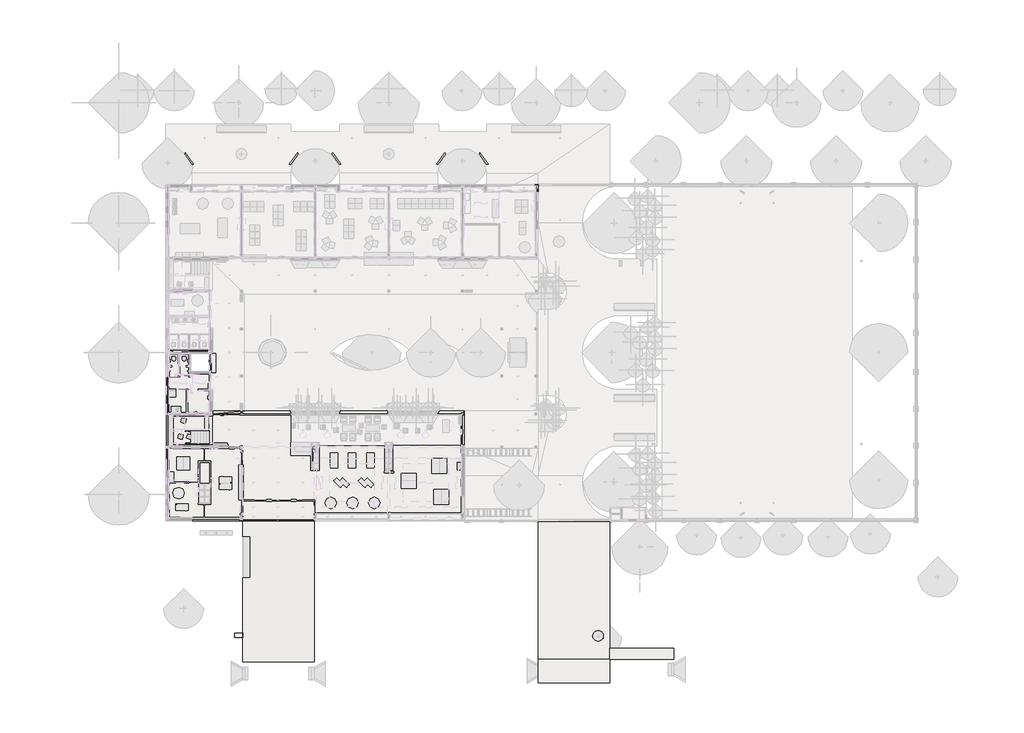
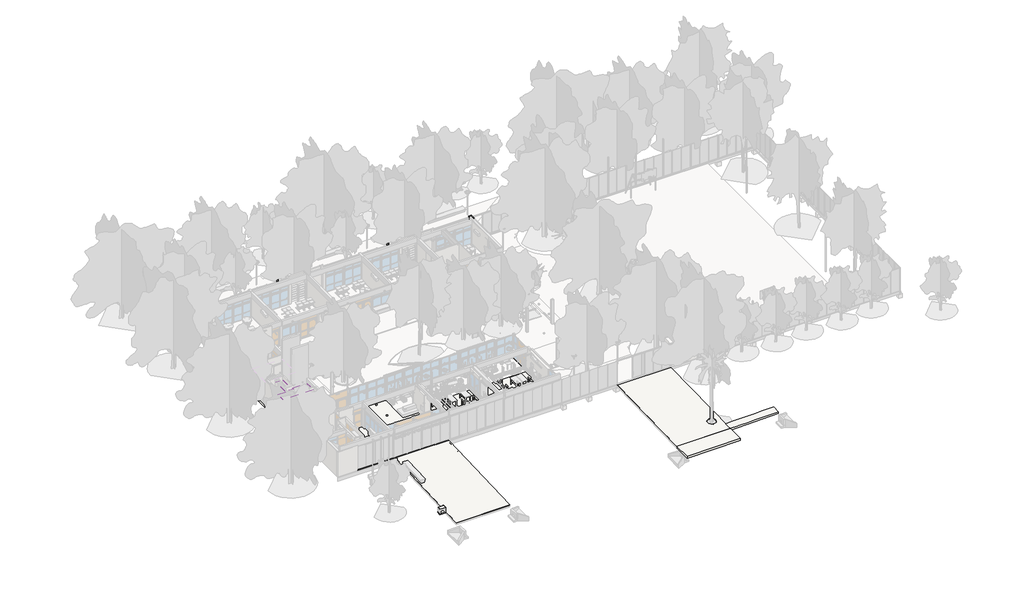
# One storey, part 7 of 22: 23 slabs, 9 walls, 2 coverings.
"""IFC4 building model written with IfcOpenShell, lengths in millimetres."""

from ifc_helpers import new_model, si_unit, point, frame, frame_2d, origin, place, context, project, spatial, polyline, circle_curve, ellipse_curve, trimmed, segment, composite_curve, outline, extrude, faceted_brep, element, save
from ifc_brep_helpers import plane_surface, revolved_surface, spline_surface, advanced_brep

model = new_model("IFC4")

# Units and contexts
model_context = context("Model", 3, world=origin())
ifc_project = project(units=[si_unit("LENGTHUNIT", "METRE", prefix="MILLI")], contexts=[model_context])

# Site, building, storey
site = spatial("IfcSite", under=ifc_project)
building = spatial("IfcBuilding", under=site)
storey = spatial("IfcBuildingStorey", under=building, Name="PLanta baja", Elevation=0.0)

# Coverings
placement = place(None, origin())
element("IfcCovering", 1, ObjectType="22-CIEL-PLACA DE YESO PINTADA DE BLANCO CON ESTRUCTURA 45,5MM", at=placement, inside=storey, context=model_context, shape_type="SweptSolid", body=[
    extrude(outline(polyline([(5250.9489127, 15850.2304035), (5250.9489127, 13780.2304035), (4387.5203708, 13780.2304035), (4387.5203708, 15850.2304035), (5250.9489127, 15850.2304035)])), frame((0.0, 0.0, 2600.0), z_axis=(0.0, 0.0, 1.0), x_axis=(1.0, 0.0, 0.0)), (0.0, 0.0, 1.0), 45.5),
    extrude(outline(polyline([(4267.5203708, 15850.2304035), (4267.5203708, 13780.2304035), (3408.7173694, 13780.2304035), (3408.7173694, 15850.2304035), (4267.5203708, 15850.2304035)])), frame((0.0, 0.0, 2600.0), z_axis=(0.0, 0.0, 1.0), x_axis=(1.0, 0.0, 0.0)), (0.0, 0.0, 1.0), 45.5),
])
element("IfcCovering", 2, ObjectType="22-CIEL-PLACA DE YESO PINTADA DE BLANCO CON ESTRUCTURA 45,5MM", at=placement, inside=storey, context=model_context, shape_type="SweptSolid", body=[
    extrude(outline(polyline([(5018.7173694, 12410.2304035), (5018.7173694, 10335.2304035), (3388.7173693, 10335.2304035), (3388.7173693, 12410.2304035), (5018.7173694, 12410.2304035)])), frame((0.0, 0.0, 2600.0), z_axis=(0.0, 0.0, 1.0), x_axis=(1.0, 0.0, 0.0)), (0.0, 0.0, 1.0), 45.5),
    extrude(outline(polyline([(7148.7173693, 12405.2304035), (7148.7173693, 10340.2304035), (5133.7173694, 10340.2304035), (5133.7173694, 12405.2304035), (7148.7173693, 12405.2304035)])), frame((0.0, 0.0, 2600.0), z_axis=(0.0, 0.0, 1.0), x_axis=(1.0, 0.0, 0.0)), (0.0, 0.0, 1.0), 45.5),
    extrude(outline(polyline([(3388.7173693, 13670.2304035), (5365.9489127, 13670.2304035), (5365.9489127, 13970.2304035), (7168.7173693, 13970.2304035), (7168.7173693, 12520.2304035), (3388.7173693, 12520.2304035), (3388.7173693, 13670.2304035)])), frame((0.0, 0.0, 2600.0), z_axis=(0.0, 0.0, 1.0), x_axis=(1.0, 0.0, 0.0)), (0.0, 0.0, 1.0), 45.5),
])

# Slabs
element("IfcSlab", 3, ObjectType="P2 Adoquín hormigón- Sin sustrato", at=placement, inside=storey, context=model_context, shape_type="SweptSolid", body=[
    extrude(outline(polyline([(-13010.358923, -644.0), (-13010.358923, -584.0), (210.2304035, -30.0), (210.2304035, -90.0), (-13010.358923, -644.0)])), frame((10288.7173694, 0.0, 0.0), z_axis=(1.0, 0.0, 0.0), x_axis=(0.0, 1.0, 0.0)), (0.0, 0.0, 1.0), 6700.0),
])
element("IfcSlab", 4, ObjectType="PODOTÁCTIL 30x30 4 cm", at=placement, inside=storey, context=model_context, shape_type="SweptSolid", body=[
    extrude(outline(polyline([(7168.7173694, 10010.2304035), (7468.7173694, 10010.2304035), (7468.7173694, 7330.2304035), (7168.7173694, 7330.2304035), (7168.7173694, 10010.2304035)])), frame((0.0, 0.0, -50.0), z_axis=(0.0, 0.0, 1.0), x_axis=(1.0, 0.0, 0.0)), (0.0, 0.0, 1.0), 50.0),
])
element("IfcSlab", 5, ObjectType="PODOTÁCTIL 30x30 8 cm", at=placement, inside=storey, context=model_context, shape_type="SweptSolid", body=[
    extrude(outline(polyline([(7788.7173694, 15870.2304035), (7788.7173694, 14070.2304035), (7368.7173693, 14070.2304035), (7368.7173693, 14170.2304035), (7188.7173694, 14170.2304035), (7188.7173694, 15870.2304035), (7788.7173694, 15870.2304035)])), frame((0.0, 0.0, -80.0), z_axis=(0.0, 0.0, 1.0), x_axis=(1.0, 0.0, 0.0)), (0.0, 0.0, 1.0), 80.0),
])
element("IfcSlab", 6, ObjectType="C30 MONOLITICO 30x30 5cm", at=placement, inside=storey, context=model_context, shape_type="Brep", body=[
    faceted_brep([(14788.7173693, 10470.2304035, -50.0), (14788.7173693, 7220.2304035, -50.0), (16988.7173694, 7220.2304035, -50.0), (16988.7173694, 6620.2304035, -50.0), (17188.7173694, 6620.2304035, -50.0), (17188.7173694, 7220.2304035, -50.0), (23888.7173694, 7220.2304035, -50.0), (23888.7173694, 6620.2304035, -50.0), (24088.7173694, 6620.2304035, -50.0), (24088.7173694, 7250.2304035, -50.0), (30773.7173693, 7250.2304035, -50.0), (30773.7173693, 2520.2304035, -50.0), (30788.7173694, 2520.2304035, -50.0), (30788.7173694, 920.2304035, -50.0), (16988.7173694, 920.2304035, -50.0), (16988.7173694, 2079.2304035, -50.0), (10288.7173694, 2079.2304035, -50.0), (10288.7173694, 920.2304035, -50.0), (10088.7173694, 920.2304035, -50.0), (10088.7173694, 510.2304035, -50.0), (3403.7173694, 510.2304035, -50.0), (3403.7173694, 4920.2304035, -50.0), (3378.7173694, 4920.2304035, -50.0), (3378.7173694, 7020.2304035, -50.0), (3788.7173693, 7020.2304035, -50.0), (3788.7173693, 7005.2304035, -50.0), (8938.7173694, 7005.2304035, -50.0), (8938.7173694, 7330.2304035, -50.0), (7468.7173694, 7330.2304035, -50.0), (7468.7173694, 10010.2304035, -50.0), (7478.7173693, 10010.2304035, -50.0), (7478.7173693, 10470.2304035, -50.0), (10276.2173694, 7220.2304035, -50.0), (10088.7173694, 7220.2304035, -50.0), (10088.7173694, 6620.2304035, -50.0), (10276.2173694, 6620.2304035, -50.0), (7288.7173693, 5680.2304035, -50.0), (7223.7173693, 5680.2304035, -50.0), (7223.7173693, 1835.2304035, -50.0), (7288.7173693, 1835.2304035, -50.0), (6247.7173693, 3685.2304035, -50.0), (6188.7173693, 3685.2304035, -50.0), (6188.7173693, 1835.2304035, -50.0), (6247.7173693, 1835.2304035, -50.0), (14788.7173693, 10470.2304035, -30.0), (14788.7173693, 10196.8528489, -0.176994), (14788.7173693, 10195.2304035, 0.0), (14788.7173693, 7220.2304035, 0.0), (16988.7173694, 7220.2304035, 0.0), (16988.7173694, 6620.2304035, 0.0), (17188.7173694, 6620.2304035, 0.0), (17188.7173694, 7220.2304035, 0.0), (23888.7173694, 7220.2304035, 0.0), (23888.7173694, 6620.2304035, 0.0), (24088.7173694, 6620.2304035, 0.0), (24088.7173694, 7250.2304035, 0.0), (30773.7173693, 7250.2304035, 0.0), (30788.7173694, 2520.2304035, 0.0), (30788.7173694, 920.2304035, 0.0), (16988.7173694, 920.2304035, 0.0), (16988.7173694, 2079.2304035, 0.0), (10288.7173694, 920.2304035, 0.0), (10088.7173694, 920.2304035, 0.0), (10088.7173694, 510.2304035, 0.0), (3403.7173694, 510.2304035, 0.0), (3403.7173694, 4920.2304035, 0.0), (3378.7173694, 7020.2304035, 0.0), (3788.7173693, 7020.2304035, 0.0), (3788.7173693, 7005.2304035, 0.0), (8938.7173694, 7005.2304035, 0.0), (8938.7173694, 7330.2304035, 0.0), (7468.7173694, 7330.2304035, 0.0), (7468.7173694, 10010.2304035, 0.0), (7478.7173693, 10470.2304035, 0.0), (10438.7173694, 10470.2304035, -30.0), (10276.2173694, 7220.2304035, 0.0), (10088.7173694, 7220.2304035, 0.0), (10088.7173694, 6620.2304035, 0.0), (10276.2173694, 6620.2304035, 0.0), (3378.7173694, 4920.2304035, 0.0), (7288.7173693, 5680.2304035, 0.0), (7223.7173693, 5680.2304035, 0.0), (7223.7173693, 1835.2304035, 0.0), (7288.7173693, 1835.2304035, 0.0), (6247.7173693, 3685.2304035, 0.0), (6188.7173693, 3685.2304035, 0.0), (6188.7173693, 1835.2304035, 0.0), (6247.7173693, 1835.2304035, 0.0), (30773.7173693, 2520.2304035, 0.0), (7478.7173693, 10010.2304035, 0.0), (7478.7173693, 10120.2304035, 0.0), (7478.7173693, 10195.2304035, 0.0), (10288.7173694, 2079.2304035, 0.0)], [[[0, 1, 2, 3, 4, 5, 6, 7, 8, 9, 10, 11, 12, 13, 14, 15, 16, 17, 18, 19, 20, 21, 22, 23, 24, 25, 26, 27, 28, 29, 30, 31], [32, 33, 34, 35], [36, 37, 38, 39], [40, 41, 42, 43]], [[1, 0, 44, 45, 46, 47]], [[2, 1, 47, 48]], [[3, 2, 48, 49]], [[4, 3, 49, 50]], [[5, 4, 50, 51]], [[6, 5, 51, 52]], [[7, 6, 52, 53]], [[8, 7, 53, 54]], [[9, 8, 54, 55]], [[10, 9, 55, 56]], [[13, 12, 57, 58]], [[14, 13, 58, 59]], [[15, 14, 59, 60]], [[18, 17, 61, 62]], [[19, 18, 62, 63]], [[20, 19, 63, 64]], [[21, 20, 64, 65]], [[24, 23, 66, 67]], [[25, 24, 67, 68]], [[26, 25, 68, 69]], [[27, 26, 69, 70]], [[28, 27, 70, 71]], [[29, 28, 71, 72]], [[0, 31, 73, 74, 44]], [[33, 32, 75, 76]], [[34, 33, 76, 77]], [[35, 34, 77, 78]], [[32, 35, 78, 75]], [[22, 21, 65, 79]], [[23, 22, 79, 66]], [[37, 36, 80, 81]], [[38, 37, 81, 82]], [[39, 38, 82, 83]], [[36, 39, 83, 80]], [[41, 40, 84, 85]], [[42, 41, 85, 86]], [[43, 42, 86, 87]], [[40, 43, 87, 84]], [[11, 10, 56, 88]], [[12, 11, 88, 57]], [[30, 29, 72, 89]], [[31, 30, 89, 90, 91, 73]], [[65, 64, 63, 62, 61, 92, 60, 59, 58, 57, 88, 56, 55, 54, 53, 52, 51, 50, 49, 48, 47, 46, 91, 90, 89, 72, 71, 70, 69, 68, 67, 66, 79], [87, 86, 85, 84], [83, 82, 81, 80], [77, 76, 75, 78]], [[16, 15, 60, 92]], [[17, 16, 92, 61]], [[73, 91, 74]], [[46, 45, 44, 74, 91]]]),
    faceted_brep([(28588.7173693, 10195.2304035, -50.0), (28588.7173693, 10470.2304035, -50.0), (31098.7173693, 10470.2304035, -50.0), (31098.7173693, 7330.2304035, -50.0), (30788.7173693, 7330.2304035, -50.0), (30788.7173693, 10120.2304035, -50.0), (30985.7484701, 10120.2304035, -50.0), (30985.7484701, 10320.2304035, -50.0), (30784.2374571, 10320.2304035, -50.0), (30784.2374571, 10195.2304035, -50.0), (28588.7173693, 10195.2304035, 0.0), (28588.7173693, 10470.2304035, -30.0), (31098.7173693, 10470.2304035, -30.0), (31098.7173693, 7330.2304035, -30.0), (30788.7173693, 7330.2304035, 0.0), (30788.7173693, 10195.2304035, 0.0), (30788.7173693, 10195.2304035, -3.707574), (30788.7173693, 10120.2304035, -3.707574), (30929.6264603, 10320.2304035, -13.6363636), (30988.7141609, 10320.2304035, -19.3545282), (30988.7141609, 10120.2304035, -19.3545282), (30789.0728378, 10120.2304035, -0.0344002), (30789.0728378, 10195.5457384, -0.0344002), (30787.7565187, 10320.2304035, -13.6363636)], [[[0, 1, 2, 3, 4, 5, 6, 7, 8, 9]], [[1, 0, 10, 11]], [[2, 1, 11, 12]], [[3, 2, 12, 13]], [[4, 3, 13, 14]], [[4, 14, 15, 16, 17, 5]], [[10, 0, 9, 16, 15]], [[14, 13, 12, 18, 19, 20, 21, 22, 15]], [[11, 10, 15, 22, 23, 18, 12]], [[7, 19, 18, 23, 8]], [[8, 23, 22, 21, 17, 16, 9]], [[17, 21, 20, 6, 5]], [[19, 7, 6, 20]]]),
    faceted_brep([(23888.7173694, 10470.2304035, -50.0), (23888.7173694, 10195.2304035, -50.0), (19388.7173693, 10195.2304035, -50.0), (19388.7173693, 10470.2304035, -50.0), (23888.7173694, 10470.2304035, -30.0), (23888.7173694, 10195.2304035, 0.0), (19388.7173693, 10195.2304035, 0.0), (19388.7173693, 10470.2304035, -30.0)], [[[0, 1, 2, 3]], [[1, 0, 4, 5]], [[2, 1, 5, 6]], [[3, 2, 6, 7]], [[0, 3, 7, 4]], [[6, 5, 4, 7]]]),
])
element("IfcSlab", 7, ObjectType="C32 ENTABLONADO LAPACHO 5cm", at=placement, inside=storey, context=model_context, shape_type="SweptSolid", body=[
    extrude(outline(polyline([(7168.7173694, 7330.2304035), (3788.7173693, 7330.2304035), (3788.7173693, 7220.2304035), (3388.7173693, 7220.2304035), (3388.7173693, 10120.2304035), (3788.7173693, 10120.2304035), (3788.7173693, 10010.2304035), (7168.7173694, 10010.2304035), (7168.7173694, 7330.2304035)])), frame((0.0, 0.0, -450.0), z_axis=(0.0, 0.0, 1.0), x_axis=(1.0, 0.0, 0.0)), (0.0, 0.0, 1.0), 50.0),
])
element("IfcSlab", 8, ObjectType="Alisado AyP con hidrófugo", at=placement, inside=storey, context=model_context, shape_type="Brep", body=[
    faceted_brep([(3388.7173693, 12420.2304035, -50.0), (3388.7173693, 10320.2304035, -50.0), (3173.7173693, 10320.2304035, -50.0), (3173.7173693, 13670.2304035, -50.0), (3388.7173693, 13670.2304035, -50.0), (3388.7173693, 12520.2304035, -50.0), (3288.7173693, 12520.2304035, -50.0), (3288.7173693, 12420.2304035, -50.0), (3388.7173693, 12420.2304035, 0.0), (3388.7173693, 10320.2304035, 0.0), (3288.7173693, 10320.2304035, 0.0), (3173.7173693, 10320.2304035, -30.0), (3173.7173693, 13670.2304035, -30.0), (3288.7173693, 13670.2304035, 0.0), (3388.7173693, 13670.2304035, 0.0), (3288.7173693, 12420.2304035, 0.0), (3288.7173693, 12520.2304035, 0.0), (3388.7173693, 12520.2304035, 0.0)], [[[0, 1, 2, 3, 4, 5, 6, 7]], [[1, 0, 8, 9]], [[2, 1, 9, 10, 11]], [[3, 2, 11, 12]], [[4, 3, 12, 13, 14]], [[12, 11, 10, 15, 16, 13]], [[5, 4, 14, 17]], [[6, 5, 17, 16]], [[7, 6, 16, 15]], [[0, 7, 15, 8]], [[9, 8, 15, 10]], [[16, 17, 14, 13]]]),
])
element("IfcSlab", 9, ObjectType="Alisado AyP con hidrófugo", at=placement, inside=storey, context=model_context, shape_type="SweptSolid", body=[
    extrude(outline(polyline([(-50.0, 3188.7173693), (-50.0, 3388.7173694), (0.0, 3388.7173694), (0.0, 3313.7173694), (-30.0, 3188.7173693), (-50.0, 3188.7173693)])), frame((0.0, 7220.2304035, 0.0), z_axis=(0.0, 1.0, 0.0), x_axis=(0.0, 0.0, 1.0)), (0.0, 0.0, 1.0), 2900.0),
])
element("IfcSlab", 10, ObjectType="Alisado AyP con hidrófugo", at=placement, inside=storey, context=model_context, shape_type="SweptSolid", body=[
    extrude(outline(polyline([(-50.0, 3178.7173694), (-50.0, 3378.7173694), (0.0, 3378.7173694), (0.0, 3303.7173694), (-30.0, 3178.7173694), (-50.0, 3178.7173694)])), frame((0.0, 4920.2304035, 0.0), z_axis=(0.0, 1.0, 0.0), x_axis=(0.0, 0.0, 1.0)), (0.0, 0.0, 1.0), 2100.0),
])
element("IfcSlab", 11, ObjectType="P Balasto Compactado 30 cm SSHH", at=placement, inside=storey, context=model_context, shape_type="Brep", body=[
    faceted_brep([(7168.7173694, 19220.2304035, -300.0), (7168.7173694, 16070.2304035, -300.0), (5268.7173693, 16070.2304035, -300.0), (3398.7173693, 16070.2304035, -300.0), (3398.7173693, 19220.2304035, -300.0), (7168.7173694, 19220.2304035, -80.0), (7168.7173694, 19220.2304035, -50.0), (7168.7173694, 16310.2304035, -50.0), (7168.7173694, 16070.2304035, -50.0), (7168.7173694, 16070.2304035, -80.0), (7148.7173694, 16070.2304035, -50.0), (3408.7173694, 16070.2304035, -50.0), (3398.7173693, 16070.2304035, -50.0), (3398.7173693, 16070.2304035, -247.7461451), (3398.7173693, 19220.2304035, -50.0), (3398.7173693, 19220.2304035, -246.1395244)], [[[0, 1, 2, 3, 4]], [[1, 0, 5, 6, 7, 8, 9]], [[3, 2, 1, 9, 8, 10, 11, 12, 13]], [[4, 3, 13, 12, 14, 15]], [[0, 4, 15, 14, 6, 5]], [[14, 12, 11, 10, 8, 7, 6]]]),
    faceted_brep([(5268.1214583, 15870.2304035, -300.0), (5268.1214583, 14170.2304035, -300.0), (5268.1214583, 13970.2304035, -300.0), (5268.7173693, 13970.2304035, -300.0), (7168.7173694, 13970.2304035, -300.0), (7168.7173694, 10320.2304035, -300.0), (3388.7173693, 10320.2304035, -300.0), (3388.7173693, 13970.2304035, -300.0), (3388.7173693, 14170.2304035, -300.0), (3388.7173693, 15870.2304035, -300.0), (5268.1214583, 15870.2304035, -234.697393), (5268.1214583, 15870.2304035, -50.0), (5268.1214583, 13970.2304035, -50.0), (5268.1214583, 13970.2304035, -234.661519), (7168.7173694, 13970.2304035, 0.0), (7168.7173694, 13970.2304035, -80.0), (3388.7173693, 13970.2304035, 0.0), (3388.7173693, 15870.2304035, -50.0), (3388.7173693, 15870.2304035, -246.1700061), (3408.7173694, 15870.2304035, -50.0), (7168.7173694, 12519.9522511, -19.866824), (7168.7173694, 10340.2304035, -49.7260274), (7168.7173694, 10320.2304035, -50.0), (7168.7173694, 10320.2304035, -80.0), (6768.7173693, 10320.2304035, -50.0), (3388.7173693, 10320.2304035, -50.0), (3388.7173693, 13670.2304035, -4.109589), (3408.7173694, 13970.2304035, -0.5320836), (3408.7173694, 15850.0112286, -50.0), (7148.7173693, 10358.6394096, -50.0), (7158.3031452, 10340.2304035, -50.0)], [[[0, 1, 2, 3, 4, 5, 6, 7, 8, 9]], [[2, 1, 0, 10, 11, 12, 13]], [[4, 3, 2, 13, 12, 14, 15]], [[9, 8, 7, 16, 17, 18]], [[0, 9, 18, 17, 19, 11, 10]], [[5, 4, 15, 14, 20, 21, 22, 23]], [[6, 5, 23, 22, 24, 25]], [[7, 6, 25, 26, 16]], [[17, 16, 27, 12, 28]], [[12, 27, 16, 26, 25]], [[12, 29, 30, 22, 21, 20, 14]], [[12, 25, 24, 22, 30, 29]], [[17, 28, 12, 11, 19]]]),
])
element("IfcSlab", 12, ObjectType="P2 Adoquín hormigón- Sin sustrato", at=placement, inside=storey, context=model_context, shape_type="AdvancedBrep", body=[
    advanced_brep(
    [(37998.4930104, -12767.0291637, -360.0), (37998.4930104, -12767.0291637, -300.0), (37998.4930104, 160.2304035, -50.9632234), (37998.4930104, 160.2304035, -110.9632234), (44688.7173693, -12767.0291637, -300.0), (44688.7173693, -12767.0291637, -360.0), (44688.7173693, 160.2304035, -110.9632234), (44688.7173693, 160.2304035, -50.9632234), (44102.7825237, -10593.5413867, -258.1289145), (43102.7825237, -10593.5413867, -258.1289145), (43102.7825237, -10593.5413867, -318.1289145), (44102.7825237, -10593.5413867, -318.1289145)],
    [
        (0, 1),
        (1, 2),
        (2, 3),
        (3, 0),
        (4, 5),
        (5, 6),
        (6, 7),
        (7, 4),
        (1, 4),
        (7, 2),
        (8, 9, ellipse_curve(frame((43602.7825237, -10593.5413867, -258.1289145), z_axis=(0.0, 0.019260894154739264, -0.9998144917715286), x_axis=(0.0, 0.9998144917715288, 0.019260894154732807)), 500.0927713, 500.0)),
        (9, 8, ellipse_curve(frame((43602.7825237, -10593.5413867, -258.1289145), z_axis=(0.0, 0.019260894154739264, -0.9998144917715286), x_axis=(0.0, 0.9998144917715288, 0.019260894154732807)), 500.0927713, 500.0)),
        (5, 0),
        (3, 6),
        (10, 11, ellipse_curve(frame((43602.7825237, -10593.5413867, -318.1289145), z_axis=(0.0, -0.019260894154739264, 0.9998144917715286), x_axis=(0.0, 0.9998144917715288, 0.019260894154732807)), 500.0927713, 500.0)),
        (11, 10, ellipse_curve(frame((43602.7825237, -10593.5413867, -318.1289145), z_axis=(0.0, -0.019260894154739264, 0.9998144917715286), x_axis=(0.0, 0.9998144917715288, 0.019260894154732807)), 500.0927713, 500.0)),
        (10, 9),
        (8, 11),
    ],
    [
        plane_surface(frame((37998.4930104, -12767.0291637, -110.0), z_axis=(-1.0, 0.0, 0.0), x_axis=(0.0, 0.0, 1.0))),
        plane_surface(frame((44688.7173693, 210.2304035, -110.0), z_axis=(1.0, 0.0, 0.0), x_axis=(0.0, 0.0, 1.0))),
        plane_surface(frame((41343.6051898, -6278.3993801, -175.0), z_axis=(0.0, -0.019260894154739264, 0.9998144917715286), x_axis=(-1.0, 0.0, 0.0))),
        plane_surface(frame((41343.6051898, -6278.3993801, -235.0), z_axis=(0.0, 0.019260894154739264, -0.9998144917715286), x_axis=(-1.0, 0.0, 0.0))),
        plane_surface(frame((44688.7173693, -12767.0291637, -110.0), z_axis=(0.0, -1.0, 0.0), x_axis=(0.0, 0.0, 1.0))),
        revolved_surface(polyline([(44102.7825237, -10593.5413867, -248.4966805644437), (44102.7825237, -10593.5413867, -327.7611484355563)]), (43602.7825237, -10593.5413867, -664.8), (0.0, 0.0, 1.0)),
        plane_surface(frame((73288.5673693, 160.2304035, -350.0), z_axis=(0.0, 1.0, 0.0), x_axis=(-1.0, 0.0, 0.0))),
    ],
    [
        (0, [[1, 2, 3, 4]]),
        (1, [[5, 6, 7, 8]]),
        (2, [[9, -8, 10, -2], [11, 12]]),
        (3, [[13, -4, 14, -6], [15, 16]]),
        (4, [[-5, -9, -1, -13]]),
        (5, [[17, -11, 18, -15]]),
        (5, [[-17, -16, -18, -12]]),
        (6, [[-3, -10, -7, -14]]),
    ],
),
])
element("IfcSlab", 13, ObjectType="C30 MONOLITICO 30x30 5cm", at=placement, inside=storey, context=model_context, shape_type="SweptSolid", body=[
    extrude(outline(polyline([(2079.2304035, -50.0), (210.2304035, -50.0), (210.2304035, -30.0), (2079.2304035, 0.0), (2079.2304035, -50.0)])), frame((10288.7173694, 0.0, 0.0), z_axis=(1.0, 0.0, 0.0), x_axis=(0.0, 1.0, 0.0)), (0.0, 0.0, 1.0), 6700.0),
])
element("IfcSlab", 14, ObjectType="Sub base y descalce fundaciones 35cm", at=placement, inside=storey, context=model_context, shape_type="Brep", body=[
    faceted_brep([(7168.7173694, 19220.2304035, -780.0), (7168.7173694, 16070.2304035, -780.0), (5268.7173693, 16070.2304035, -780.0), (3398.7173693, 16070.2304035, -780.0), (3398.7173693, 19220.2304035, -780.0), (7168.7173694, 19220.2304035, -430.0), (3398.7173693, 19220.2304035, -430.0), (3398.7173693, 16070.2304035, -430.0), (7168.7173694, 16070.2304035, -430.0), (7168.7173694, 19220.2304035, -560.0), (7168.7173694, 16070.2304035, -560.0), (3398.7173693, 16070.2304035, -700.0)], [[[0, 1, 2, 3, 4]], [[5, 6, 7, 8]], [[1, 0, 9, 5, 8, 10]], [[3, 2, 1, 10, 8, 7, 11]], [[4, 3, 11, 7, 6]], [[0, 4, 6, 5, 9]]]),
    faceted_brep([(5268.1214583, 15870.2304035, -780.0), (5268.1214583, 14170.2304035, -780.0), (3388.7173693, 14170.2304035, -780.0), (3388.7173693, 15870.2304035, -780.0), (5268.1214583, 15870.2304035, -430.0), (3388.7173693, 15870.2304035, -430.0), (3388.7173693, 14170.2304035, -430.0), (5268.1214583, 14170.2304035, -430.0), (5268.1214583, 15870.2304035, -700.0), (5268.1214583, 14170.2304035, -700.0), (3388.7173693, 14170.2304035, -700.0), (3388.7173693, 15870.2304035, -700.0)], [[[0, 1, 2, 3]], [[4, 5, 6, 7]], [[1, 0, 8, 4, 7, 9]], [[2, 1, 9, 7, 6, 10]], [[3, 2, 10, 6, 5, 11]], [[0, 3, 11, 5, 4, 8]]]),
    faceted_brep([(7168.7173694, 13970.2304035, -780.0), (7168.7173694, 10320.2304035, -780.0), (3388.7173693, 10320.2304035, -780.0), (3388.7173693, 13970.2304035, -780.0), (5268.7173693, 13970.2304035, -780.0), (7168.7173694, 13970.2304035, -430.0), (3388.7173693, 13970.2304035, -430.0), (3388.7173693, 10320.2304035, -430.0), (7168.7173694, 10320.2304035, -430.0), (7168.7173694, 13970.2304035, -560.0), (7168.7173694, 10320.2304035, -560.0), (7168.7173694, 10320.2304035, -700.0), (3388.7173693, 10320.2304035, -700.0), (3388.7173693, 13970.2304035, -700.0)], [[[0, 1, 2, 3, 4]], [[5, 6, 7, 8]], [[1, 0, 9, 5, 8, 10, 11]], [[2, 1, 11, 10, 8, 7, 12]], [[3, 2, 12, 7, 6, 13]], [[0, 4, 3, 13, 6, 5, 9]]]),
])
element("IfcSlab", 15, ObjectType="C30 MONOLITICO 30x30 5cm", at=placement, inside=storey, context=model_context, shape_type="Brep", body=[
    faceted_brep([(5588.7173694, 210.2304035, -50.0), (5588.7173694, 435.2304035, -50.0), (10088.7173694, 435.2304035, -50.0), (10088.7173694, 320.2304035, -50.0), (10288.7173694, 320.2304035, -50.0), (10288.7173694, 210.2304035, -50.0), (5588.7173694, 210.2304035, -30.0), (5588.7173694, 435.2304035, 0.0), (10088.7173694, 435.2304035, 0.0), (10288.7173694, 210.2304035, -30.0), (10288.7173694, 320.2304035, -15.3333333), (10088.7173694, 320.2304035, -15.3333333)], [[[0, 1, 2, 3, 4, 5]], [[1, 0, 6, 7]], [[1, 7, 8, 2]], [[9, 5, 4, 10]], [[0, 5, 9, 6]], [[11, 3, 2, 8]], [[3, 11, 10, 4]], [[7, 6, 9, 10, 11, 8]]]),
])
element("IfcSlab", 16, ObjectType="P1 Infraestructura", at=placement, inside=storey, context=model_context, shape_type="AdvancedBrep", body=[
    advanced_brep(
    [(50688.7173693, -12767.0291638, -430.0), (50688.7173693, -12767.0291638, -180.0), (44688.7173693, -12767.0291638, -300.0), (44688.7173693, -12767.0291638, -550.0), (50688.7173693, -11771.6343451, -400.0), (50688.7173693, -11771.6343451, -150.0), (44688.7173693, -11771.6343451, -530.0), (44688.7173693, -11771.6343451, -280.0)],
    [
        (0, 1),
        (1, 2),
        (2, 3),
        (3, 0),
        (4, 5),
        (5, 1),
        (0, 4),
        (6, 7),
        (7, 5),
        (4, 6),
        (2, 7),
        (6, 3),
    ],
    [
        plane_surface(frame((50688.7173693, -12767.0291638, -300.0), z_axis=(0.0, -1.0, 0.0), x_axis=(0.0, 0.0, 1.0))),
        plane_surface(frame((50688.7173693, -11771.6343451, -300.0), z_axis=(1.0, 0.0, 0.0), x_axis=(0.0, 0.0, 1.0))),
        plane_surface(frame((44688.7173693, -11771.6343451, -300.0), z_axis=(0.0, 1.0, 0.0), x_axis=(0.0, 0.0, 1.0))),
        plane_surface(frame((44688.7173693, -12767.0291638, -300.0), z_axis=(-1.0, 0.0, 0.0), x_axis=(0.0, 0.0, 1.0))),
        spline_surface(1, 1, [[(50688.7173693, -11771.6343451, -150.0), (50688.7173693, -12767.0291638, -180.0)], [(44688.7173693, -11771.6343451, -280.0), (44688.7173693, -12767.0291638, -300.0)]], [2, 2], [2, 2], [0.0, 1.0], [0.0, 1.0]),
        spline_surface(1, 1, [[(50688.7173693, -11771.6343451, -400.0), (44688.7173693, -11771.6343451, -530.0)], [(50688.7173693, -12767.0291638, -430.0), (44688.7173693, -12767.0291638, -550.0)]], [2, 2], [2, 2], [0.0, 1.0], [0.0, 1.0]),
    ],
    [
        (0, [[1, 2, 3, 4]]),
        (1, [[5, 6, -1, 7]]),
        (2, [[8, 9, -5, 10]]),
        (3, [[-3, 11, -8, 12]]),
        (4, [[-6, -9, -11, -2]]),
        (5, [[-4, -12, -10, -7]]),
    ],
),
])
element("IfcSlab", 17, ObjectType="P1 Infraestructura", at=placement, inside=storey, context=model_context, shape_type="SweptSolid", body=[
    extrude(outline(polyline([(37998.4930104, -15011.1646286), (37998.4930104, -12767.0291637), (44688.7173693, -12767.0291637), (44688.7173693, -14967.0291637), (37998.4930104, -15011.1646286)])), frame((0.0, 0.0, -550.0), z_axis=(0.0, 0.0, 1.0), x_axis=(1.0, 0.0, 0.0)), (0.0, 0.0, 1.0), 250.0),
])
element("IfcSlab", 18, ObjectType="C31 MONOLITICO 30x30 5cm", at=placement, inside=storey, context=model_context, shape_type="Brep", body=[
    faceted_brep([(3408.7173694, 13670.2304035, -50.0), (3408.7173694, 15854.9660911, -50.0), (5250.9489127, 15854.9660911, -50.0), (5258.7173694, 15854.9660911, -50.0), (5258.7173694, 15850.2304035, -50.0), (5258.7173694, 13780.2304035, -50.0), (5258.7173694, 13670.2304035, -50.0), (5373.7173693, 13670.2304035, -50.0), (5373.7173693, 13970.2304035, -50.0), (7168.7173693, 13970.2304035, -50.0), (7168.7173693, 12520.2304035, -50.0), (7148.7173693, 12520.2304035, -50.0), (7148.7173693, 10340.2304035, -50.0), (5118.7173694, 10340.2304035, -50.0), (5118.7173694, 10335.2304035, -50.0), (5076.2173694, 10335.2304035, -50.0), (3388.7173694, 10335.2304035, -50.0), (3388.7173694, 12420.2304035, -50.0), (3413.7173694, 12420.2304035, -50.0), (3413.7173694, 12520.2304035, -50.0), (3388.7173694, 12520.2304035, -50.0), (3388.7173694, 13670.2304035, -50.0), (3408.7173694, 13670.2304035, 0.0), (3388.7173694, 13670.2304035, 0.0), (3388.7173694, 12520.2304035, 0.0), (3413.7173694, 12520.2304035, 0.0), (3413.7173694, 12420.2304035, 0.0), (3388.7173694, 12420.2304035, 0.0), (3388.7173694, 10335.2304035, 0.0), (5018.7173694, 10335.2304035, 0.0), (5076.2173694, 10335.2304035, 0.0), (5118.7173694, 10335.2304035, 0.0), (5118.7173694, 10340.2304035, 0.0), (5133.7173694, 10340.2304035, 0.0), (7148.7173693, 10340.2304035, 0.0), (7148.7173693, 12405.2304035, 0.0), (7148.7173693, 12520.2304035, 0.0), (7168.7173693, 12520.2304035, 0.0), (7168.7173693, 13970.2304035, 0.0), (5373.7173693, 13970.2304035, 0.0), (5373.7173693, 13670.2304035, 0.0), (5258.7173694, 13670.2304035, 0.0), (5258.7173694, 13780.2304035, 0.0), (5258.7173694, 15850.2304035, 0.0), (5258.7173694, 15854.9660911, 0.0), (5250.9489127, 15854.9660911, 0.0), (3408.7173694, 15854.9660911, 0.0), (3408.7173694, 15850.2304035, 0.0)], [[[0, 1, 2, 3, 4, 5, 6, 7, 8, 9, 10, 11, 12, 13, 14, 15, 16, 17, 18, 19, 20, 21]], [[22, 23, 24, 25, 26, 27, 28, 29, 30, 31, 32, 33, 34, 35, 36, 37, 38, 39, 40, 41, 42, 43, 44, 45, 46, 47]], [[1, 0, 22, 47, 46]], [[3, 2, 1, 46, 45, 44]], [[6, 5, 4, 3, 44, 43, 42, 41]], [[9, 8, 39, 38]], [[10, 9, 38, 37]], [[11, 10, 37, 36]], [[12, 11, 36, 35, 34]], [[16, 15, 14, 31, 30, 29, 28]], [[21, 20, 24, 23]], [[0, 21, 23, 22]], [[17, 16, 28, 27]], [[18, 17, 27, 26]], [[19, 18, 26, 25]], [[20, 19, 25, 24]], [[7, 6, 41, 40]], [[8, 7, 40, 39]], [[13, 12, 34, 33, 32]], [[14, 13, 32, 31]]]),
])
element("IfcSlab", 19, ObjectType="CONTRAPISO H.A. 10cm", at=placement, inside=storey, context=model_context, shape_type="SweptSolid", body=[
    extrude(outline(polyline([(10288.7173694, -10316.6343451), (10288.7173694, -10771.6343451), (9528.7173694, -10771.6343451), (9528.7173694, -10316.6343451), (10288.7173694, -10316.6343451)])), frame((0.0, 0.0, -600.0), z_axis=(0.0, 0.0, 1.0), x_axis=(1.0, 0.0, 0.0)), (0.0, 0.0, 1.0), 100.0),
])
element("IfcSlab", 20, ObjectType="P2 Adoquín hormigón- Sustrato de Arena", at=placement, inside=storey, context=model_context, shape_type="SweptSolid", body=[
    extrude(outline(polyline([(-12860.358923, -694.0), (-12860.358923, -644.0), (210.2304035, -90.0), (210.2304035, -140.0), (-12860.358923, -694.0)])), frame((10438.7173694, 0.0, 0.0), z_axis=(1.0, 0.0, 0.0), x_axis=(0.0, 1.0, 0.0)), (0.0, 0.0, 1.0), 6400.0),
])
element("IfcSlab", 21, ObjectType="P2 Adoquín hormigón- Sustrato de Arena", at=placement, inside=storey, context=model_context, shape_type="AdvancedBrep", body=[
    advanced_brep(
    [(38148.4930104, -12617.0291637, -410.0), (38148.4930104, -12617.0291637, -360.0), (38148.4930104, 160.2304035, -110.9744872), (38148.4930104, 160.2304035, -160.9744872), (44538.7173693, -12617.0291637, -360.0), (44538.7173693, -12617.0291637, -410.0), (44538.7173693, 160.2304035, -160.9744872), (44538.7173693, 160.2304035, -110.9744872), (44102.7825237, -10593.5413867, -320.5627421), (43102.7825237, -10593.5413867, -320.5627421), (43102.7825237, -10593.5413867, -370.5627421), (44102.7825237, -10593.5413867, -370.5627421)],
    [
        (0, 1),
        (1, 2),
        (2, 3),
        (3, 0),
        (4, 5),
        (5, 6),
        (6, 7),
        (7, 4),
        (1, 4),
        (7, 2),
        (8, 9, ellipse_curve(frame((43602.7825237, -10593.5413867, -320.5627421), z_axis=(0.0, 0.01948604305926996, -0.9998101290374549), x_axis=(0.0, 0.9998101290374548, 0.01948604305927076)), 500.0949535, 500.0)),
        (9, 8, ellipse_curve(frame((43602.7825237, -10593.5413867, -320.5627421), z_axis=(0.0, 0.01948604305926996, -0.9998101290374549), x_axis=(0.0, 0.9998101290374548, 0.01948604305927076)), 500.0949535, 500.0)),
        (5, 0),
        (3, 6),
        (10, 11, ellipse_curve(frame((43602.7825237, -10593.5413867, -370.5627421), z_axis=(0.0, -0.01948604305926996, 0.9998101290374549), x_axis=(0.0, 0.9998101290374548, 0.01948604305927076)), 500.0949535, 500.0)),
        (11, 10, ellipse_curve(frame((43602.7825237, -10593.5413867, -370.5627421), z_axis=(0.0, -0.01948604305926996, 0.9998101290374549), x_axis=(0.0, 0.9998101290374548, 0.01948604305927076)), 500.0949535, 500.0)),
        (10, 9),
        (8, 11),
    ],
    [
        plane_surface(frame((38148.4930104, -12617.0291637, -160.0), z_axis=(-1.0, 0.0, 0.0), x_axis=(0.0, 0.0, 1.0))),
        plane_surface(frame((44538.7173693, 210.2304035, -160.0), z_axis=(1.0, 0.0, 0.0), x_axis=(0.0, 0.0, 1.0))),
        plane_surface(frame((41343.6051898, -6203.3993801, -235.0), z_axis=(0.0, -0.01948604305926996, 0.9998101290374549), x_axis=(-1.0, 0.0, 0.0))),
        plane_surface(frame((41343.6051898, -6203.3993801, -285.0), z_axis=(0.0, 0.01948604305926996, -0.9998101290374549), x_axis=(-1.0, 0.0, 0.0))),
        plane_surface(frame((44538.7173693, -12617.0291637, -160.0), z_axis=(0.0, -1.0, 0.0), x_axis=(0.0, 0.0, 1.0))),
        revolved_surface(polyline([(44102.7825237, -10593.5413867, -310.81787030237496), (44102.7825237, -10593.5413867, -380.307613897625)]), (43602.7825237, -10593.5413867, -714.8), (0.0, 0.0, 1.0)),
        plane_surface(frame((73288.5673693, 160.2304035, -350.0), z_axis=(0.0, 1.0, 0.0), x_axis=(-1.0, 0.0, 0.0))),
    ],
    [
        (0, [[1, 2, 3, 4]]),
        (1, [[5, 6, 7, 8]]),
        (2, [[9, -8, 10, -2], [11, 12]]),
        (3, [[13, -4, 14, -6], [15, 16]]),
        (4, [[-5, -9, -1, -13]]),
        (5, [[17, -11, 18, -15]]),
        (5, [[-17, -16, -18, -12]]),
        (6, [[-3, -10, -7, -14]]),
    ],
),
])
element("IfcSlab", 22, ObjectType="LOSA-INT-HA-11cm-PET", at=placement, inside=storey, context=model_context, shape_type="SweptSolid", body=[
    extrude(outline(polyline([(3388.7173693, 10120.2304035), (7168.7173694, 10120.2304035), (7168.7173694, 7220.2304035), (3388.7173693, 7220.2304035), (3388.7173693, 10120.2304035)])), frame((0.0, 0.0, -560.0), z_axis=(0.0, 0.0, 1.0), x_axis=(1.0, 0.0, 0.0)), (0.0, 0.0, 1.0), 110.0),
])
element("IfcSlab", 23, ObjectType="LOSA-INT-HA-13cm-PET", at=placement, inside=storey, context=model_context, shape_type="Brep", body=[
    faceted_brep([(7168.7173694, 19220.2304035, -430.0), (7168.7173694, 16070.2304035, -430.0), (3388.7173694, 16070.2304035, -430.0), (3388.7173694, 19220.2304035, -430.0), (7168.7173694, 19220.2304035, -300.0), (3388.7173694, 19220.2304035, -300.0), (3388.7173694, 16070.2304035, -300.0), (5268.7173693, 16070.2304035, -300.0), (7168.7173694, 16070.2304035, -300.0)], [[[0, 1, 2, 3]], [[4, 5, 6, 7, 8]], [[1, 0, 4, 8]], [[2, 1, 8, 7, 6]], [[3, 2, 6, 5]], [[0, 3, 5, 4]]]),
    faceted_brep([(5268.7173693, 15870.2304035, -430.0), (5268.7173693, 14170.2304035, -430.0), (3388.7173693, 14170.2304035, -430.0), (3388.7173693, 15870.2304035, -430.0), (5268.7173693, 15870.2304035, -300.0), (3388.7173693, 15870.2304035, -300.0), (3388.7173693, 14170.2304035, -300.0), (5268.7173693, 14170.2304035, -300.0)], [[[0, 1, 2, 3]], [[4, 5, 6, 7]], [[1, 0, 4, 7]], [[2, 1, 7, 6]], [[3, 2, 6, 5]], [[0, 3, 5, 4]]]),
    faceted_brep([(7168.7173694, 13970.2304035, -430.0), (7168.7173694, 10320.2304035, -430.0), (3388.7173693, 10320.2304035, -430.0), (3388.7173693, 13970.2304035, -430.0), (7168.7173694, 13970.2304035, -300.0), (5268.7173694, 13970.2304035, -300.0), (3388.7173693, 13970.2304035, -300.0), (3388.7173693, 10320.2304035, -300.0), (7168.7173694, 10320.2304035, -300.0)], [[[0, 1, 2, 3]], [[4, 5, 6, 7, 8]], [[1, 0, 4, 8]], [[2, 1, 8, 7]], [[3, 2, 7, 6]], [[0, 3, 6, 5, 4]]]),
])
element("IfcSlab", 24, ObjectType="LOSA-INT-HA-4cm-PET", at=placement, inside=storey, context=model_context, shape_type="Brep", body=[
    faceted_brep([(9558.7173694, -10741.6343451, 60.0), (9558.7173694, -10426.6343451, 60.0), (9558.7173694, -10346.6343451, 60.0), (10258.7173694, -10346.6343451, 60.0), (10258.7173694, -10426.6343451, 60.0), (10258.7173694, -10661.6343451, 60.0), (10258.7173694, -10741.6343451, 60.0), (9638.7173694, -10741.6343451, 60.0), (9558.7173694, -10741.6343451, 100.0), (10258.7173694, -10741.6343451, 100.0), (10258.7173694, -10346.6343451, 100.0), (9558.7173694, -10346.6343451, 100.0), (9558.7173694, -10741.6343451, 90.0), (9558.7173694, -10346.6343451, 90.0), (10258.7173694, -10346.6343451, 90.0), (10258.7173694, -10741.6343451, 90.0)], [[[0, 1, 2, 3, 4, 5, 6, 7]], [[8, 9, 10, 11]], [[2, 1, 0, 12, 8, 11, 13]], [[3, 2, 13, 11, 10, 14]], [[6, 5, 4, 3, 14, 10, 9, 15]], [[0, 7, 6, 15, 9, 8, 12]]]),
])
element("IfcSlab", 25, ObjectType="P Base de Piso Madera", at=placement, inside=storey, context=model_context, shape_type="SweptSolid", body=[
    extrude(outline(polyline([(7368.7173694, 7220.2304035), (3788.7173693, 7220.2304035), (3398.7173694, 7220.2304035), (3398.7173694, 10120.2304035), (3788.7173693, 10120.2304035), (7368.7173694, 10120.2304035), (7368.7173694, 7220.2304035)])), frame((0.0, 0.0, -910.0), z_axis=(0.0, 0.0, 1.0), x_axis=(1.0, 0.0, 0.0)), (0.0, 0.0, 1.0), 350.0),
])

# Walls
element("IfcWall", 26, ObjectType="MURO-Pizarrón-12cm-PET", at=placement, inside=storey, context=model_context, shape_type="SweptSolid", body=[
    extrude(outline(composite_curve([segment(polyline([(5694.8351229, 33627.1195247), (5582.0720084, 33586.0771075)]), True, "CONTINUOUS"), segment(trimmed(circle_curve(frame_2d((3289.2220137, 32751.5479578)), 2440.0), [point((5582.0720084, 33586.0771075))], [point((4857.6237814, 34620.696399))], True, "CARTESIAN"), True, "CONTINUOUS"), segment(polyline([(4857.6237814, 34620.696399), (4934.7582945, 34712.6217322)]), True, "CONTINUOUS"), segment(trimmed(circle_curve(frame_2d((3289.2220137, 32751.5479578)), 2560.0), [point((4934.7582945, 34712.6217322))], [point((5694.8351229, 33627.1195247))], False, "CARTESIAN"), True, "CONTINUOUS")], self_intersect=False)), frame((0.0, 0.0, -50.0), z_axis=(0.0, 0.0, 1.0), x_axis=(1.0, 0.0, 0.0)), (0.0, 0.0, 1.0), 1200.0),
])
element("IfcWall", 27, ObjectType="MURO-Pizarrón-12cm-PET", at=placement, inside=storey, context=model_context, shape_type="SweptSolid", body=[
    extrude(outline(composite_curve([segment(polyline([(19494.8351229, 33627.1195247), (19382.0720084, 33586.0771075)]), True, "CONTINUOUS"), segment(trimmed(circle_curve(frame_2d((17089.2220137, 32751.5479578)), 2440.0), [point((19382.0720084, 33586.0771075))], [point((18657.6237813, 34620.696399))], True, "CARTESIAN"), True, "CONTINUOUS"), segment(polyline([(18657.6237813, 34620.696399), (18734.7582945, 34712.6217322)]), True, "CONTINUOUS"), segment(trimmed(circle_curve(frame_2d((17089.2220137, 32751.5479578)), 2560.0), [point((18734.7582945, 34712.6217322))], [point((19494.8351229, 33627.1195247))], False, "CARTESIAN"), True, "CONTINUOUS")], self_intersect=False)), frame((0.0, 0.0, -50.0), z_axis=(0.0, 0.0, 1.0), x_axis=(1.0, 0.0, 0.0)), (0.0, 0.0, 1.0), 1200.0),
])
element("IfcWall", 28, ObjectType="MURO-Pizarrón-12cm-PET", at=placement, inside=storey, context=model_context, shape_type="SweptSolid", body=[
    extrude(outline(composite_curve([segment(polyline([(14795.3627303, 33586.0771075), (14682.5996158, 33627.1195247)]), True, "CONTINUOUS"), segment(trimmed(circle_curve(frame_2d((17088.212725, 32751.5479578)), 2560.0), [point((14682.5996158, 33627.1195247))], [point((15442.6764442, 34712.6217322))], False, "CARTESIAN"), True, "CONTINUOUS"), segment(polyline([(15442.6764442, 34712.6217322), (15519.8109574, 34620.696399)]), True, "CONTINUOUS"), segment(trimmed(circle_curve(frame_2d((17088.212725, 32751.5479578)), 2440.0), [point((15519.8109574, 34620.696399))], [point((14795.3627303, 33586.0771075))], True, "CARTESIAN"), True, "CONTINUOUS")], self_intersect=False)), frame((0.0, 0.0, -50.0), z_axis=(0.0, 0.0, 1.0), x_axis=(1.0, 0.0, 0.0)), (0.0, 0.0, 1.0), 1200.0),
])
element("IfcWall", 29, ObjectType="MURO-Pizarrón-12cm-PET", at=placement, inside=storey, context=model_context, shape_type="SweptSolid", body=[
    extrude(outline(composite_curve([segment(polyline([(33289.8351229, 33627.1195247), (33177.0720084, 33586.0771075)]), True, "CONTINUOUS"), segment(trimmed(circle_curve(frame_2d((30884.2220137, 32751.5479578)), 2440.0), [point((33177.0720084, 33586.0771075))], [point((32452.6237814, 34620.696399))], True, "CARTESIAN"), True, "CONTINUOUS"), segment(polyline([(32452.6237814, 34620.696399), (32529.7582945, 34712.6217322)]), True, "CONTINUOUS"), segment(trimmed(circle_curve(frame_2d((30884.2220137, 32751.5479578)), 2560.0), [point((32529.7582945, 34712.6217322))], [point((33289.8351229, 33627.1195247))], False, "CARTESIAN"), True, "CONTINUOUS")], self_intersect=False)), frame((0.0, 0.0, -50.0), z_axis=(0.0, 0.0, 1.0), x_axis=(1.0, 0.0, 0.0)), (0.0, 0.0, 1.0), 1200.0),
])
element("IfcWall", 30, ObjectType="MURO-Pizarrón-12cm-PET", at=placement, inside=storey, context=model_context, shape_type="SweptSolid", body=[
    extrude(outline(composite_curve([segment(polyline([(28590.3627303, 33586.0771075), (28477.5996158, 33627.1195247)]), True, "CONTINUOUS"), segment(trimmed(circle_curve(frame_2d((30883.212725, 32751.5479578)), 2560.0), [point((28477.5996158, 33627.1195247))], [point((29237.6764442, 34712.6217322))], False, "CARTESIAN"), True, "CONTINUOUS"), segment(polyline([(29237.6764442, 34712.6217322), (29314.8109574, 34620.696399)]), True, "CONTINUOUS"), segment(trimmed(circle_curve(frame_2d((30883.212725, 32751.5479578)), 2440.0), [point((29314.8109574, 34620.696399))], [point((28590.3627303, 33586.0771075))], True, "CARTESIAN"), True, "CONTINUOUS")], self_intersect=False)), frame((0.0, 0.0, -50.0), z_axis=(0.0, 0.0, 1.0), x_axis=(1.0, 0.0, 0.0)), (0.0, 0.0, 1.0), 1200.0),
])
element("IfcWall", 31, ObjectType="REVE-EXT-Ladrillo Hormigón-11cm-PET", at=placement, inside=storey, context=model_context, shape_type="Brep", body=[
    faceted_brep([(37688.7173693, 31620.2304035, -50.0), (37888.7173693, 31620.2304035, -50.0), (37998.7173693, 31620.2304035, -50.0), (37998.7173693, 31620.2304035, 3260.0), (37948.7173693, 31620.2304035, 3260.0), (37948.7173693, 31620.2304035, 3100.0), (37888.7173693, 31620.2304035, 3100.0), (37688.7173693, 31620.2304035, 3100.0), (37998.7173693, 31730.2304035, -50.0), (37688.7173693, 31730.2304035, -50.0), (37688.7173693, 31730.2304035, 3100.0), (37688.7173693, 31730.2304035, 3260.0), (37998.7173693, 31730.2304035, 3260.0), (37688.7173693, 31680.2304035, 3260.0), (37948.7173693, 31680.2304035, 3260.0), (37688.7173693, 31680.2304035, 3100.0), (37948.7173693, 31680.2304035, 3100.0)], [[[0, 1, 2, 3, 4, 5, 6, 7]], [[8, 9, 10, 11, 12]], [[2, 1, 0, 9, 8]], [[12, 11, 13, 14, 4, 3]], [[9, 0, 7, 15, 13, 11, 10]], [[3, 2, 8, 12]], [[16, 15, 7, 6, 5]], [[15, 16, 14, 13]], [[14, 16, 5, 4]]]),
])
element("IfcWall", 32, ObjectType="REVE-EXT-Ladrillo Hormigón-11cm-PET", at=placement, inside=storey, context=model_context, shape_type="Brep", body=[
    faceted_brep([(37888.7173693, 31620.2304035, -50.0), (37888.7173693, 31020.2304035, -50.0), (37888.7173693, 31020.2304035, 2600.0), (37888.7173693, 31020.2304035, 3100.0), (37888.7173693, 31620.2304035, 3100.0), (37998.7173693, 31020.2304035, -50.0), (37998.7173693, 31620.2304035, -50.0), (37998.7173693, 31620.2304035, 3260.0), (37998.7173693, 31020.2304035, 3260.0), (37948.7173693, 31020.2304035, 3260.0), (37948.7173693, 31020.2304035, 3100.0), (37948.7173693, 31620.2304035, 3260.0), (37948.7173693, 31620.2304035, 3100.0)], [[[0, 1, 2, 3, 4]], [[5, 6, 7, 8]], [[1, 0, 6, 5]], [[5, 8, 9, 10, 3, 2, 1]], [[8, 7, 11, 9]], [[7, 6, 0, 4, 12, 11]], [[10, 12, 4, 3]], [[12, 10, 9, 11]]]),
])
element("IfcWall", 33, ObjectType="CORD-C1-Cordoneta hormigón armado-15x20cm-PET", at=placement, inside=storey, context=model_context, shape_type="Brep", body=[
    faceted_brep([(67237.2173693, 31469.0534459, -360.0), (67237.2173693, 31319.0534459, -360.0), (67237.2173693, 629.0534459, -360.0), (67237.2173693, 629.0534459, -310.0), (67237.2173693, 629.0534459, -160.0), (67237.2173693, 31319.0534459, -160.0), (67237.2173693, 31469.0534459, -160.0), (67387.2173693, 31469.0534459, -360.0), (67387.2173693, 31469.0534459, -160.0), (67387.2173693, 629.0534459, -160.0), (67387.2173693, 629.0534459, -360.0)], [[[0, 1, 2, 3, 4, 5, 6]], [[7, 8, 9, 10]], [[2, 1, 0, 7, 10]], [[6, 5, 4, 9, 8]], [[4, 3, 2, 10, 9]], [[0, 6, 8, 7]]]),
])
element("IfcWall", 34, ObjectType="CORD-C1-Cordoneta hormigón armado-15x20cm-PET", at=placement, inside=storey, context=model_context, shape_type="Brep", body=[
    faceted_brep([(67237.2173693, 31469.0534459, -360.0), (49747.2173693, 31469.0534459, -360.0), (49747.2173693, 31469.0534459, -160.0), (67237.2173693, 31469.0534459, -160.0), (67237.2173693, 31319.0534459, -360.0), (67237.2173693, 31319.0534459, -310.0), (67237.2173693, 31319.0534459, -160.0), (49747.2173693, 31319.0534459, -160.0), (49747.2173693, 31319.0534459, -310.0), (49747.2173693, 31319.0534459, -360.0)], [[[0, 1, 2, 3]], [[4, 5, 6, 7, 8, 9]], [[1, 0, 4, 9]], [[3, 2, 7, 6]], [[2, 1, 9, 8, 7]], [[0, 3, 6, 5, 4]]]),
])

save(model, "model.ifc")
